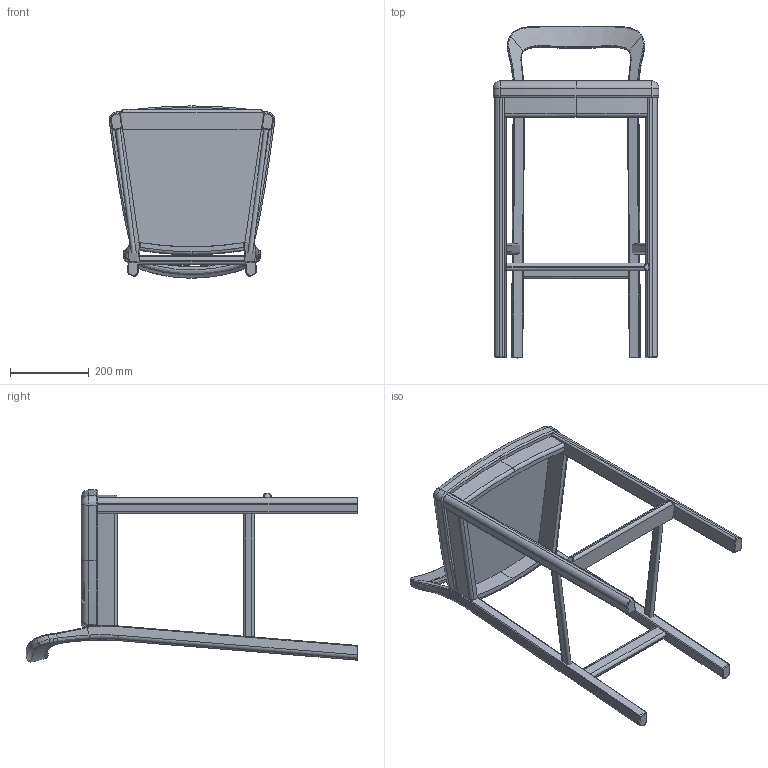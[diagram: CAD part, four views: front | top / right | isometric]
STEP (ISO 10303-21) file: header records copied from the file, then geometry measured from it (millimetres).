
FILE_DESCRIPTION (( 'STEP AP214' ), '1' );
FILE_NAME ('A僴僀僠僃傾乕CG.STEP', '2026-03-21T04:28:28', ( '' ), ( '' ), 'SwSTEP 2.0', 'SolidWorks 2025', '' );
FILE_SCHEMA (( 'AUTOMOTIVE_DESIGN' ));
Length unit declared in the file: millimetre
Products named in the file (1): AハイチェアーCG
Bounding box: 420.47 x 841.47 x 436.43 mm (x, y, z)
Volume: 10367538.3 mm3; surface area: 1003803.4 mm2
Topology: 14 solids, 14 shells, 291 faces, 687 edges, 424 vertices
Faces by surface type: plane 104, cylinder 75, bspline 60, torus 34, cone 18
Entity records: 12835 total; most frequent: CARTESIAN_POINT 6537, ORIENTED_EDGE 1370, DIRECTION 1155, EDGE_CURVE 685, AXIS2_PLACEMENT_3D 436, VERTEX_POINT 424, EDGE_LOOP 293, ADVANCED_FACE 291
